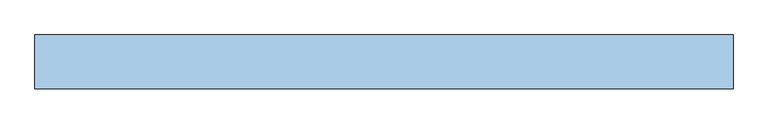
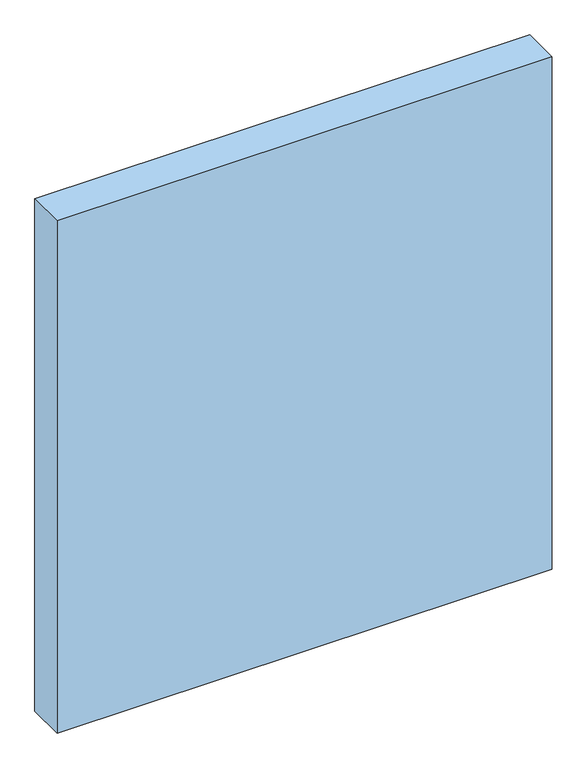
"""IFC4 building model written with IfcOpenShell, lengths in millimetres: window geometry, Dr_Проем-Четверти_окно : ВТ."""

from ifc_helpers import new_model, si_unit, frame, origin, place, context, project, spatial, polyline, outline, extrude, source, transform, mapped, element, save


def window_f6bdc0fd(model_context):
    return source(origin(), model_context, "Body", "SweptSolid", [
        extrude(outline(polyline([(1105.0, -50.0), (-835.0, -50.0), (-835.0, 100.0), (1105.0, 100.0), (1105.0, -50.0)])), frame((0.0, 0.0, -60.0), z_axis=(0.0, 0.0, 1.0), x_axis=(1.0, 0.0, 0.0)), (0.0, 0.0, 1.0), 2120.0),
    ])


if __name__ == "__main__":
    model = new_model("IFC4")
    model_context = context("Model", 3, world=origin())
    ifc_project = project(units=[si_unit("LENGTHUNIT", "METRE", prefix="MILLI")], contexts=[model_context])
    site = spatial("IfcSite", under=ifc_project)
    building = spatial("IfcBuilding", under=site)
    placement = place(None, origin())
    window_shape = window_f6bdc0fd(model_context)
    element("IfcWindow", 1, ObjectType="Dr_Проем-Четверти_окно : ВТ", at=placement, inside=building, context=model_context, shape_type="MappedRepresentation", body=[
        mapped(window_shape, transform((0.0, 0.0, 0.0), x_axis=(1.0, 0.0, 0.0), y_axis=(0.0, 1.0, 0.0), z_axis=(0.0, 0.0, 1.0))),
    ])
    save(model, "model.ifc")
